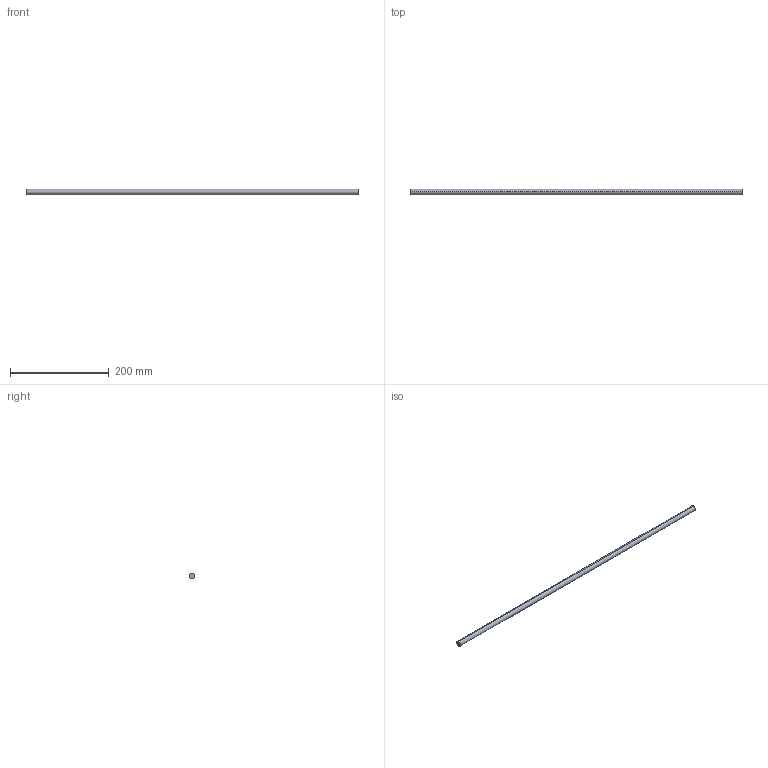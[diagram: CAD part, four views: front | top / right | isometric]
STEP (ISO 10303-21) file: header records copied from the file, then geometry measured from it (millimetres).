
FILE_DESCRIPTION (( 'STEP AP214' ), '1' );
FILE_NAME ('Querreling_2S-Rel_7102_25mm-Halter_KAB-800.step', '2010-09-22T15:06:06', ( 'grass' ), ( '' ), 'SwSTEP 2.0', 'SolidWorks 2010', '' );
FILE_SCHEMA (( 'AUTOMOTIVE_DESIGN' ));
Length unit declared in the file: millimetre
Products named in the file (1): Querreling_2S-Rel_7102_25mm-Halter_KAB-800
Bounding box: 674 x 11 x 11 mm (x, y, z)
Volume: 64052.4 mm3; surface area: 23481.8 mm2
Topology: 1 solids, 1 shells, 4 faces, 6 edges, 4 vertices
Faces by surface type: cylinder 2, plane 2
Entity records: 128 total; most frequent: DIRECTION 20, CARTESIAN_POINT 15, ORIENTED_EDGE 12, AXIS2_PLACEMENT_3D 9, EDGE_CURVE 6, VERTEX_POINT 4, EDGE_LOOP 4, CIRCLE 4
